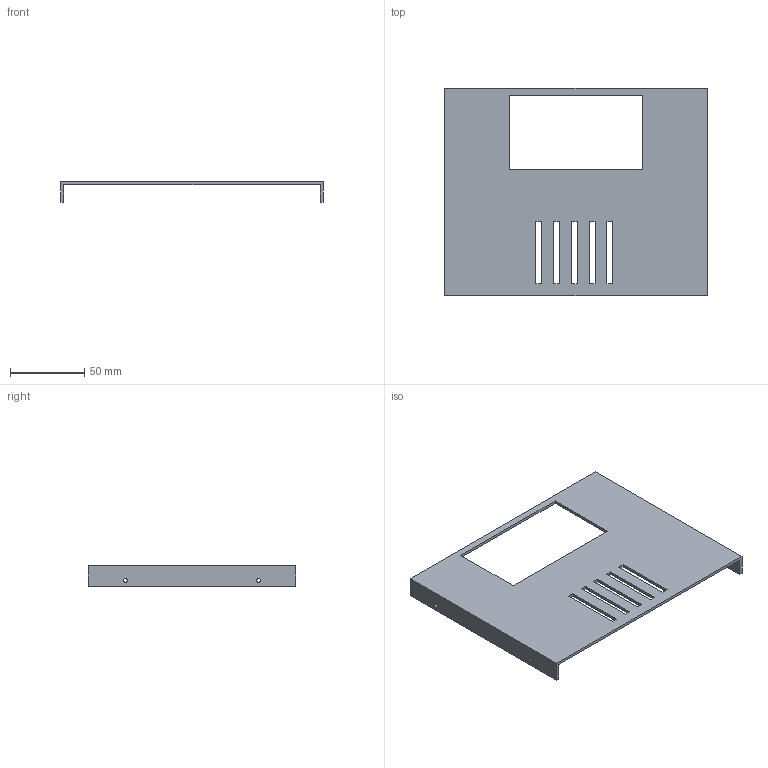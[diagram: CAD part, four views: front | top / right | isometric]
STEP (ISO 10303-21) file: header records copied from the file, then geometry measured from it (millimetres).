
FILE_DESCRIPTION(('FreeCAD Model'),'2;1');
FILE_NAME('Open CASCADE Shape Model','2026-06-08T10:03:13',('FreeCAD'),( 'FreeCAD'),'Open CASCADE STEP processor 7.8','FreeCAD','Unknown');
FILE_SCHEMA(('AUTOMOTIVE_DESIGN { 1 0 10303 214 1 1 1 1 }'));
Length unit declared in the file: millimetre
Products named in the file (1): Open CASCADE STEP translator 7.8 5
Bounding box: 176.9 x 140 x 14 mm (x, y, z)
Volume: 45529.5 mm3; surface area: 48438.5 mm2
Topology: 1 solids, 1 shells, 38 faces, 108 edges, 72 vertices
Faces by surface type: plane 34, cylinder 4
Full cylindrical faces by diameter (mm): 2.6 x4
Entity records: 1270 total; most frequent: CARTESIAN_POINT 219, ORIENTED_EDGE 216, DIRECTION 194, EDGE_CURVE 108, LINE 100, VECTOR 100, VERTEX_POINT 72, FACE_BOUND 58
